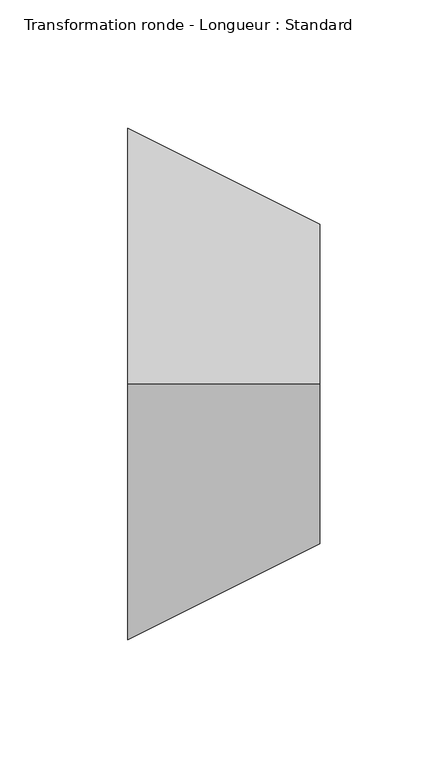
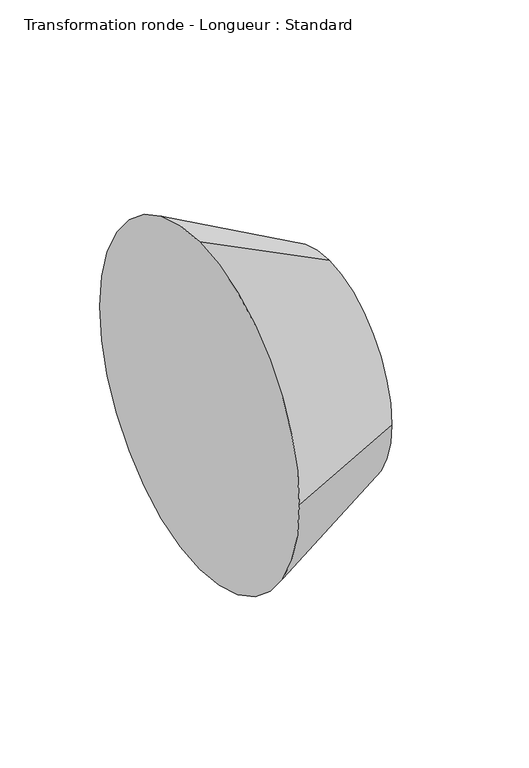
"""IFC4 building model written with IfcOpenShell, lengths in millimetres: duct fitting geometry, Transformation ronde - Longueur : Standard."""

import ifcopenshell
import ifcopenshell.guid

model = None  # the IFC model being written
_history = None  # IfcOwnerHistory: only IFC2X3 demands one
_inside = {}  # id of a spatial element -> (the spatial element, [elements in it])
_under = {}  # id of a project, library or spatial element -> (it, [spatial elements below it])
_declared = {}  # id of a project -> (the project, [libraries it declares])
_typed = {}  # id of a type object -> (the type object, [elements of that type])
_made_of = {}  # id of a material, layer set ... -> (it, [elements and type objects made of it])


def new_model(schema):
    """Start an empty IFC model of exactly this schema.

    Asked for "IFC4X3", IfcOpenShell would pick the latest addendum, in which some entities
    have other attributes; the version numbers below select the first issue.
    IFC2X3 requires an IfcOwnerHistory on every rooted entity: one is made here for all.
    """
    global model, _history
    if schema == "IFC4X3":
        model = ifcopenshell.file(schema_version=(4, 3, 0, 0))
    else:
        model = ifcopenshell.file(schema=schema)
    _inside.clear()
    _under.clear()
    _declared.clear()
    _typed.clear()
    _made_of.clear()
    _history = None
    if model.schema == "IFC2X3":
        org = make("IfcOrganization", Name="unknown")
        user = make(
            "IfcPersonAndOrganization",
            ThePerson=make("IfcPerson", FamilyName="unknown"),
            TheOrganization=org,
        )
        app = make(
            "IfcApplication",
            ApplicationDeveloper=org,
            Version="unknown",
            ApplicationFullName="unknown",
            ApplicationIdentifier="unknown",
        )
        _history = make(
            "IfcOwnerHistory",
            OwningUser=user,
            OwningApplication=app,
            ChangeAction="ADDED",
            CreationDate=0,
        )
    return model


def make(cls, **values):
    """One entity of the class cls with the attributes given. An attribute that is None is left unset."""
    return model.create_entity(
        cls, **{name: value for name, value in values.items() if value is not None}
    )


def rooted(cls, **values):
    """An entity with a GlobalId (a new one), such as an element, a storey or a relation."""
    return make(cls, GlobalId=ifcopenshell.guid.new(), OwnerHistory=_history, **values)


def si_unit(unit_type, name, prefix=None):
    """IfcSIUnit, for example si_unit("LENGTHUNIT", "METRE", prefix="MILLI")."""
    return make("IfcSIUnit", UnitType=unit_type, Prefix=prefix, Name=name)


def assignment(units):
    """IfcUnitAssignment: the units of a project."""
    return None if units is None else make("IfcUnitAssignment", Units=units)


def point(xyz):
    """IfcCartesianPoint."""
    return None if xyz is None else make("IfcCartesianPoint", Coordinates=xyz)


def direction(xyz):
    """IfcDirection."""
    return None if xyz is None else make("IfcDirection", DirectionRatios=xyz)


def frame(location, z_axis=None, x_axis=None):
    """IfcAxis2Placement3D, a coordinate frame: its origin and axes. An axis left out is left unset."""
    return make(
        "IfcAxis2Placement3D",
        Location=point(location),
        Axis=direction(z_axis),
        RefDirection=direction(x_axis),
    )


def origin():
    """The frame at (0, 0, 0) with its axes left unset."""
    return frame((0.0, 0.0, 0.0))


def place(relative_to, where):
    """IfcLocalPlacement: puts the frame where relative to a parent placement (None: the world)."""
    return make(
        "IfcLocalPlacement", PlacementRelTo=relative_to, RelativePlacement=where
    )


def context(
    kind, dimensions, precision=None, world=None, true_north=None, identifier=None
):
    """IfcGeometricRepresentationContext, for example the 3D "Model" context."""
    return make(
        "IfcGeometricRepresentationContext",
        ContextIdentifier=identifier,
        ContextType=kind,
        CoordinateSpaceDimension=dimensions,
        Precision=precision,
        WorldCoordinateSystem=world,
        TrueNorth=true_north,
    )


def project(units=None, contexts=None):
    """IfcProject with its units and contexts."""
    return rooted(
        "IfcProject",
        Name="project",
        RepresentationContexts=contexts,
        UnitsInContext=assignment(units),
    )


def spatial(cls, under=None, at=None, **own):
    """A site, building, storey or space (cls), placed at a placement, below another one or the project."""
    s = rooted(cls, ObjectPlacement=at, **own)
    if under is not None:
        _under.setdefault(under.id(), (under, []))[1].append(s)
    return s


def polyline(points):
    """IfcPolyline through the points."""
    return make("IfcPolyline", Points=[point(p) for p in points])


def circle_curve(where, radius):
    """IfcCircle in the frame where."""
    return make("IfcCircle", Position=where, Radius=radius)


def shape(context_of_items, identifier, shape_type, items):
    """IfcShapeRepresentation: the items that make up one representation, for example the "Body"."""
    return make(
        "IfcShapeRepresentation",
        ContextOfItems=context_of_items,
        RepresentationIdentifier=identifier,
        RepresentationType=shape_type,
        Items=items,
    )


def source(mapping_origin, context_of_items, identifier, shape_type, items):
    """IfcRepresentationMap: a shape defined once, which mapped items show again and again."""
    return make(
        "IfcRepresentationMap",
        MappingOrigin=mapping_origin,
        MappedRepresentation=shape(context_of_items, identifier, shape_type, items),
    )


def transform(
    local_origin,
    x_axis=None,
    y_axis=None,
    z_axis=None,
    scale=None,
    scale2=None,
    scale3=None,
    uniform=True,
):
    """IfcCartesianTransformationOperator3D, or its non-uniform kind. x_axis, y_axis, z_axis: its Axis1, 2, 3."""
    if uniform:
        return make(
            "IfcCartesianTransformationOperator3D",
            Axis1=direction(x_axis),
            Axis2=direction(y_axis),
            LocalOrigin=point(local_origin),
            Scale=scale,
            Axis3=direction(z_axis),
        )
    return make(
        "IfcCartesianTransformationOperator3DnonUniform",
        Axis1=direction(x_axis),
        Axis2=direction(y_axis),
        LocalOrigin=point(local_origin),
        Scale=scale,
        Axis3=direction(z_axis),
        Scale2=scale2,
        Scale3=scale3,
    )


def mapped(mapping_source, mapping_target):
    """IfcMappedItem: shows the shape of a source again, moved by a transform."""
    return make(
        "IfcMappedItem", MappingSource=mapping_source, MappingTarget=mapping_target
    )


def made_of(thing, what):
    """Note that an element or type object is made of a material, layer set ...; save() writes the relation."""
    if what is not None:
        _made_of.setdefault(what.id(), (what, []))[1].append(thing)
    return thing


def element(
    cls,
    number,
    at=None,
    inside=None,
    cuts=None,
    type_object=None,
    material=None,
    context=None,
    identifier="Body",
    shape_type=None,
    held_by="IfcProductDefinitionShape",
    body=None,
    shapes=None,
    **own,
):
    """One element of the class cls, such as IfcWall. Its Tag is "e" and its number.

    at: its placement. inside: the storey or other place that contains it. cuts: it is an
    opening in that element (IfcRelVoidsElement). A single representation is given by context,
    identifier, shape_type and body (its items); several are given by shapes. held_by: the class
    of the entity that holds the representations. save() writes the other relations.
    """
    e = rooted(cls, Tag="e%d" % number, ObjectPlacement=at, **own)
    if body is not None:
        shapes = [shape(context, identifier, shape_type, body)]
    if shapes is not None:
        e.Representation = make(held_by, Representations=shapes)
    if inside is not None:
        _inside.setdefault(inside.id(), (inside, []))[1].append(e)
    if cuts is not None:
        rooted(
            "IfcRelVoidsElement", RelatingBuildingElement=cuts, RelatedOpeningElement=e
        )
    if type_object is not None:
        _typed.setdefault(type_object.id(), (type_object, []))[1].append(e)
    return made_of(e, material)


def aggregate(whole, parts):
    """IfcRelAggregates: a whole, such as a stair, and the parts it consists of."""
    return rooted("IfcRelAggregates", RelatingObject=whole, RelatedObjects=parts)


def save(model, path):
    """Write the relations noted so far, then the file.

    IfcRelAggregates (storeys below a building ...), IfcRelContainedInSpatialStructure (elements
    in a storey), IfcRelDefinesByType, IfcRelAssociatesMaterial and IfcRelDeclares: one each for
    every whole, place, type object, material and project.
    """
    for whole, parts in _under.values():
        aggregate(whole, parts)
    for where, things in _inside.values():
        rooted(
            "IfcRelContainedInSpatialStructure",
            RelatedElements=things,
            RelatingStructure=where,
        )
    for kind, things in _typed.values():
        rooted("IfcRelDefinesByType", RelatedObjects=things, RelatingType=kind)
    for what, things in _made_of.values():
        rooted("IfcRelAssociatesMaterial", RelatedObjects=things, RelatingMaterial=what)
    for by, libraries in _declared.values():
        rooted("IfcRelDeclares", RelatingContext=by, RelatedDefinitions=libraries)
    model.write(path)


def plane_surface(at):
    """IfcPlane: the flat surface through the origin of the frame at, square to its z axis."""
    return make("IfcPlane", Position=at)


def revolved_surface(curve, axis_point, axis_direction):
    """IfcSurfaceOfRevolution: the curve turned about the line through axis_point along axis_direction."""
    return make(
        "IfcSurfaceOfRevolution",
        SweptCurve=make("IfcArbitraryOpenProfileDef", ProfileType="CURVE", Curve=curve),
        AxisPosition=make("IfcAxis1Placement", Location=point(axis_point), Axis=direction(axis_direction)),
    )


def advanced_brep(points, edges, surfaces, faces):
    """IfcAdvancedBrep: a solid bounded by faces that lie on surfaces and meet in shared edges.

    An edge is (start, end): straight between two places in points (the first is 0);
    or (start, end, curve); or (start, end, curve, False) where it runs against its curve.
    A face is (place in surfaces, loops), or (place, loops, False) where it looks against
    its surface's normal. A loop lists edges by number (the first is 1), with a minus sign
    where the edge is run from its end to its start. The first loop is the outer one.
    """
    corners = [point(p) for p in points]
    vertices = [make("IfcVertexPoint", VertexGeometry=c) for c in corners]
    made = []
    for start, end, *more in edges:
        made.append(
            make(
                "IfcEdgeCurve",
                EdgeStart=vertices[start],
                EdgeEnd=vertices[end],
                EdgeGeometry=more[0] if more else make("IfcPolyline", Points=[corners[start], corners[end]]),
                SameSense=more[1] if len(more) > 1 else True,
            )
        )
    hull = []
    for where, loops, *sense in faces:
        bounds = []
        for j, loop in enumerate(loops):
            ring = [make("IfcOrientedEdge", EdgeElement=made[abs(k) - 1], Orientation=k > 0) for k in loop]
            bounds.append(
                make(
                    "IfcFaceOuterBound" if j == 0 else "IfcFaceBound",
                    Bound=make("IfcEdgeLoop", EdgeList=ring),
                    Orientation=True,
                )
            )
        hull.append(make("IfcAdvancedFace", Bounds=bounds, FaceSurface=surfaces[where], SameSense=sense[0] if sense else True))
    return make("IfcAdvancedBrep", Outer=make("IfcClosedShell", CfsFaces=hull))


def transformation_ronde_longueur_standard_84a73e8b(model_context):
    return source(origin(), model_context, "Body", "AdvancedBrep", [
        advanced_brep(
        [(75.0, 62.5, 0.0), (75.0, 0.0, 62.5), (75.0, -62.5, 0.0), (75.0, 0.0, -62.5), (0.0, 100.0, 0.0), (0.0, 0.0, -100.0), (0.0, -100.0, 0.0), (0.0, 0.0, 100.0)],
        [
            (0, 1, circle_curve(frame((75.0, 0.0, 0.0), z_axis=(1.0, 0.0, 0.0), x_axis=(0.0, 1.0, 0.0)), 62.5)),
            (1, 2, circle_curve(frame((75.0, 0.0, 0.0), z_axis=(1.0, 0.0, 0.0), x_axis=(0.0, 0.0, 1.0)), 62.5)),
            (2, 3, circle_curve(frame((75.0, 0.0, 0.0), z_axis=(1.0, 0.0, 0.0), x_axis=(0.0, -1.0, 0.0)), 62.5)),
            (3, 0, circle_curve(frame((75.0, 0.0, 0.0), z_axis=(1.0, 0.0, 0.0), x_axis=(0.0, 0.0, -1.0)), 62.5)),
            (4, 5, circle_curve(frame((0.0, 0.0, 0.0), z_axis=(-1.0, 0.0, 0.0), x_axis=(0.0, 0.0, -1.0)), 100.0)),
            (5, 6, circle_curve(frame((0.0, 0.0, 0.0), z_axis=(-1.0, 0.0, 0.0), x_axis=(0.0, -1.0, 0.0)), 100.0)),
            (6, 7, circle_curve(frame((0.0, 0.0, 0.0), z_axis=(-1.0, 0.0, 0.0), x_axis=(0.0, 0.0, 1.0)), 100.0)),
            (7, 4, circle_curve(frame((0.0, 0.0, 0.0), z_axis=(-1.0, 0.0, 0.0), x_axis=(0.0, 1.0, 0.0)), 100.0)),
            (0, 4),
            (7, 1),
            (6, 2),
            (5, 3),
        ],
        [
            plane_surface(frame((75.0, 0.0, 0.0), z_axis=(1.0, 0.0, 0.0), x_axis=(0.0, 0.0, 1.0))),
            plane_surface(frame((0.0, 0.0, 0.0), z_axis=(-1.0, 0.0, 0.0), x_axis=(0.0, 0.0, 1.0))),
            revolved_surface(polyline([(75.0, 62.5, 0.0), (0.0, 100.0, 0.0)]), (200.0, 0.0, 0.0), (-1.0, 0.0, 0.0)),
            revolved_surface(polyline([(75.0, 0.0, 62.5), (0.0, 0.0, 100.0)]), (200.0, 0.0, 0.0), (-1.0, 0.0, 0.0)),
            revolved_surface(polyline([(75.0, -62.5, 0.0), (0.0, -100.0, 0.0)]), (200.0, 0.0, 0.0), (-1.0, 0.0, 0.0)),
            revolved_surface(polyline([(75.0, 0.0, -62.5), (0.0, 0.0, -100.0)]), (200.0, 0.0, 0.0), (-1.0, 0.0, 0.0)),
        ],
        [
            (0, [[1, 2, 3, 4]]),
            (1, [[5, 6, 7, 8]]),
            (2, [[-1, 9, -8, 10]]),
            (3, [[-2, -10, -7, 11]]),
            (4, [[-3, -11, -6, 12]]),
            (5, [[-4, -12, -5, -9]]),
        ],
    ),
    ])


if __name__ == "__main__":
    model = new_model("IFC4")
    model_context = context("Model", 3, world=origin())
    ifc_project = project(units=[si_unit("LENGTHUNIT", "METRE", prefix="MILLI")], contexts=[model_context])
    site = spatial("IfcSite", under=ifc_project)
    building = spatial("IfcBuilding", under=site)
    placement = place(None, origin())
    transformation_ronde_longueur_standard_shape = transformation_ronde_longueur_standard_84a73e8b(model_context)
    element("IfcDuctFitting", 1, ObjectType="Transformation ronde - Longueur : Standard", at=placement, inside=building, context=model_context, shape_type="MappedRepresentation", body=[
        mapped(transformation_ronde_longueur_standard_shape, transform((0.0, 0.0, 0.0), x_axis=(1.0, 0.0, 0.0), y_axis=(0.0, 1.0, 0.0), z_axis=(0.0, 0.0, 1.0))),
    ])
    save(model, "model.ifc")
